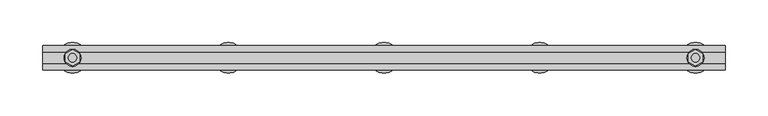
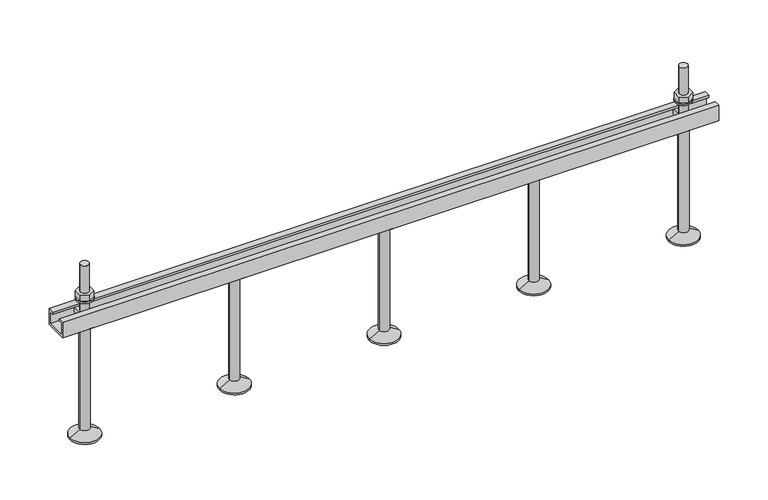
"""IFC4 building model written with IfcOpenShell, lengths in millimetres: fastener geometry, JXA(-PC) JORDAHL® toothed channels : JXA(-PC) L=800 mm."""

from ifc_helpers import new_model, si_unit, point, frame, frame_2d, origin, place, context, project, spatial, polyline, circle_curve, trimmed, segment, composite_curve, outline, extrude, source, transform, mapped, element, save
from ifc_brep_helpers import plane_surface, cylinder_surface, revolved_surface, advanced_brep


def fastener_104148dd(model_context):
    return source(origin(), model_context, "Body", "SolidModel", [
        advanced_brep(
        [(582.5, 0.0, -20.0), (597.0, 0.0, -20.0), (568.0, 0.0, -20.0), (564.5, 0.0, -166.0), (600.5, 0.0, -166.0), (582.5, 0.0, -166.0), (564.5, 0.0, -164.0), (600.5, 0.0, -164.0), (576.5, 0.0, -157.0717968), (588.5, 0.0, -157.0717968), (576.5, 0.0, -22.5), (588.5, 0.0, -22.5)],
        [
            (0, 1),
            (1, 2, circle_curve(frame((582.5, 0.0, -20.0), z_axis=(0.0, 0.0, 1.0), x_axis=(1.0, 0.0, 0.0)), 14.5)),
            (2, 0),
            (2, 1, circle_curve(frame((582.5, 0.0, -20.0), z_axis=(0.0, 0.0, 1.0), x_axis=(1.0, 0.0, 0.0)), 14.5)),
            (3, 4, circle_curve(frame((582.5, 0.0, -166.0), z_axis=(0.0, 0.0, -1.0), x_axis=(1.0, 0.0, 0.0)), 18.0)),
            (4, 5),
            (5, 3),
            (4, 3, circle_curve(frame((582.5, 0.0, -166.0), z_axis=(0.0, 0.0, -1.0), x_axis=(1.0, 0.0, 0.0)), 18.0)),
            (6, 7, circle_curve(frame((582.5, 0.0, -164.0), z_axis=(0.0, 0.0, -1.0), x_axis=(1.0, 0.0, 0.0)), 18.0)),
            (7, 4),
            (3, 6),
            (7, 6, circle_curve(frame((582.5, 0.0, -164.0), z_axis=(0.0, 0.0, -1.0), x_axis=(1.0, 0.0, 0.0)), 18.0)),
            (8, 9, circle_curve(frame((582.5, 0.0, -157.0717968), z_axis=(0.0, 0.0, -1.0), x_axis=(1.0, 0.0, 0.0)), 6.0)),
            (9, 7),
            (6, 8),
            (9, 8, circle_curve(frame((582.5, 0.0, -157.0717968), z_axis=(0.0, 0.0, -1.0), x_axis=(1.0, 0.0, 0.0)), 6.0)),
            (10, 11, circle_curve(frame((582.5, 0.0, -22.5), z_axis=(0.0, 0.0, -1.0), x_axis=(1.0, 0.0, 0.0)), 6.0)),
            (11, 9),
            (8, 10),
            (11, 10, circle_curve(frame((582.5, 0.0, -22.5), z_axis=(0.0, 0.0, -1.0), x_axis=(1.0, 0.0, 0.0)), 6.0)),
            (1, 11),
            (10, 2),
        ],
        [
            plane_surface(frame((582.5, 0.0, -20.0), z_axis=(0.0, 0.0, 1.0), x_axis=(1.0, 0.0, 0.0))),
            plane_surface(frame((582.5, 0.0, -166.0), z_axis=(0.0, 0.0, -1.0), x_axis=(1.0, 0.0, 0.0))),
            cylinder_surface(frame((582.5, 0.0, 2214.3150031), z_axis=(0.0, 0.0, 1.0), x_axis=(1.0, 0.0, 0.0)), 18.0),
            revolved_surface(polyline([(600.5, 0.0, -164.0), (588.5, 0.0, -157.0717968)]), (582.5, 0.0, 2214.3150031), (0.0, 0.0, 1.0)),
            cylinder_surface(frame((582.5, 0.0, 2214.3150031), z_axis=(0.0, 0.0, 1.0), x_axis=(1.0, 0.0, 0.0)), 6.0),
            revolved_surface(polyline([(588.5, 0.0, -22.5), (597.0, 0.0, -20.0)]), (582.5, 0.0, 2214.3150031), (0.0, 0.0, 1.0)),
        ],
        [
            (0, [[1, 2, 3]]),
            (0, [[-3, 4, -1]]),
            (1, [[5, 6, 7]]),
            (1, [[8, -7, -6]]),
            (2, [[9, 10, -5, 11]]),
            (2, [[12, -11, -8, -10]]),
            (3, [[13, 14, -9, 15]]),
            (3, [[16, -15, -12, -14]]),
            (4, [[17, 18, -13, 19]]),
            (4, [[20, -19, -16, -18]]),
            (5, [[-2, 21, -17, 22]]),
            (5, [[-4, -22, -20, -21]]),
        ],
    ),
        advanced_brep(
        [(400.0, 0.0, -20.0), (414.5, 0.0, -20.0), (385.5, 0.0, -20.0), (382.0, 0.0, -166.0), (418.0, 0.0, -166.0), (400.0, 0.0, -166.0), (382.0, 0.0, -164.0), (418.0, 0.0, -164.0), (394.0, 0.0, -157.0717968), (406.0, 0.0, -157.0717968), (394.0, 0.0, -22.5), (406.0, 0.0, -22.5)],
        [
            (0, 1),
            (1, 2, circle_curve(frame((400.0, 0.0, -20.0), z_axis=(0.0, 0.0, 1.0), x_axis=(1.0, 0.0, 0.0)), 14.5)),
            (2, 0),
            (2, 1, circle_curve(frame((400.0, 0.0, -20.0), z_axis=(0.0, 0.0, 1.0), x_axis=(1.0, 0.0, 0.0)), 14.5)),
            (3, 4, circle_curve(frame((400.0, 0.0, -166.0), z_axis=(0.0, 0.0, -1.0), x_axis=(1.0, 0.0, 0.0)), 18.0)),
            (4, 5),
            (5, 3),
            (4, 3, circle_curve(frame((400.0, 0.0, -166.0), z_axis=(0.0, 0.0, -1.0), x_axis=(1.0, 0.0, 0.0)), 18.0)),
            (6, 7, circle_curve(frame((400.0, 0.0, -164.0), z_axis=(0.0, 0.0, -1.0), x_axis=(1.0, 0.0, 0.0)), 18.0)),
            (7, 4),
            (3, 6),
            (7, 6, circle_curve(frame((400.0, 0.0, -164.0), z_axis=(0.0, 0.0, -1.0), x_axis=(1.0, 0.0, 0.0)), 18.0)),
            (8, 9, circle_curve(frame((400.0, 0.0, -157.0717968), z_axis=(0.0, 0.0, -1.0), x_axis=(1.0, 0.0, 0.0)), 6.0)),
            (9, 7),
            (6, 8),
            (9, 8, circle_curve(frame((400.0, 0.0, -157.0717968), z_axis=(0.0, 0.0, -1.0), x_axis=(1.0, 0.0, 0.0)), 6.0)),
            (10, 11, circle_curve(frame((400.0, 0.0, -22.5), z_axis=(0.0, 0.0, -1.0), x_axis=(1.0, 0.0, 0.0)), 6.0)),
            (11, 9),
            (8, 10),
            (11, 10, circle_curve(frame((400.0, 0.0, -22.5), z_axis=(0.0, 0.0, -1.0), x_axis=(1.0, 0.0, 0.0)), 6.0)),
            (1, 11),
            (10, 2),
        ],
        [
            plane_surface(frame((400.0, 0.0, -20.0), z_axis=(0.0, 0.0, 1.0), x_axis=(1.0, 0.0, 0.0))),
            plane_surface(frame((400.0, 0.0, -166.0), z_axis=(0.0, 0.0, -1.0), x_axis=(1.0, 0.0, 0.0))),
            cylinder_surface(frame((400.0, 0.0, 2214.3150031), z_axis=(0.0, 0.0, 1.0), x_axis=(1.0, 0.0, 0.0)), 18.0),
            revolved_surface(polyline([(418.0, 0.0, -164.0), (406.0, 0.0, -157.0717968)]), (400.0, 0.0, 2214.3150031), (0.0, 0.0, 1.0)),
            cylinder_surface(frame((400.0, 0.0, 2214.3150031), z_axis=(0.0, 0.0, 1.0), x_axis=(1.0, 0.0, 0.0)), 6.0),
            revolved_surface(polyline([(406.0, 0.0, -22.5), (414.5, 0.0, -20.0)]), (400.0, 0.0, 2214.3150031), (0.0, 0.0, 1.0)),
        ],
        [
            (0, [[1, 2, 3]]),
            (0, [[-3, 4, -1]]),
            (1, [[5, 6, 7]]),
            (1, [[8, -7, -6]]),
            (2, [[9, 10, -5, 11]]),
            (2, [[12, -11, -8, -10]]),
            (3, [[13, 14, -9, 15]]),
            (3, [[16, -15, -12, -14]]),
            (4, [[17, 18, -13, 19]]),
            (4, [[20, -19, -16, -18]]),
            (5, [[-2, 21, -17, 22]]),
            (5, [[-4, -22, -20, -21]]),
        ],
    ),
        advanced_brep(
        [(217.5, 0.0, -20.0), (232.0, 0.0, -20.0), (203.0, 0.0, -20.0), (199.5, 0.0, -166.0), (235.5, 0.0, -166.0), (217.5, 0.0, -166.0), (199.5, 0.0, -164.0), (235.5, 0.0, -164.0), (211.5, 0.0, -157.0717968), (223.5, 0.0, -157.0717968), (211.5, 0.0, -22.5), (223.5, 0.0, -22.5)],
        [
            (0, 1),
            (1, 2, circle_curve(frame((217.5, 0.0, -20.0), z_axis=(0.0, 0.0, 1.0), x_axis=(1.0, 0.0, 0.0)), 14.5)),
            (2, 0),
            (2, 1, circle_curve(frame((217.5, 0.0, -20.0), z_axis=(0.0, 0.0, 1.0), x_axis=(1.0, 0.0, 0.0)), 14.5)),
            (3, 4, circle_curve(frame((217.5, 0.0, -166.0), z_axis=(0.0, 0.0, -1.0), x_axis=(1.0, 0.0, 0.0)), 18.0)),
            (4, 5),
            (5, 3),
            (4, 3, circle_curve(frame((217.5, 0.0, -166.0), z_axis=(0.0, 0.0, -1.0), x_axis=(1.0, 0.0, 0.0)), 18.0)),
            (6, 7, circle_curve(frame((217.5, 0.0, -164.0), z_axis=(0.0, 0.0, -1.0), x_axis=(1.0, 0.0, 0.0)), 18.0)),
            (7, 4),
            (3, 6),
            (7, 6, circle_curve(frame((217.5, 0.0, -164.0), z_axis=(0.0, 0.0, -1.0), x_axis=(1.0, 0.0, 0.0)), 18.0)),
            (8, 9, circle_curve(frame((217.5, 0.0, -157.0717968), z_axis=(0.0, 0.0, -1.0), x_axis=(1.0, 0.0, 0.0)), 6.0)),
            (9, 7),
            (6, 8),
            (9, 8, circle_curve(frame((217.5, 0.0, -157.0717968), z_axis=(0.0, 0.0, -1.0), x_axis=(1.0, 0.0, 0.0)), 6.0)),
            (10, 11, circle_curve(frame((217.5, 0.0, -22.5), z_axis=(0.0, 0.0, -1.0), x_axis=(1.0, 0.0, 0.0)), 6.0)),
            (11, 9),
            (8, 10),
            (11, 10, circle_curve(frame((217.5, 0.0, -22.5), z_axis=(0.0, 0.0, -1.0), x_axis=(1.0, 0.0, 0.0)), 6.0)),
            (1, 11),
            (10, 2),
        ],
        [
            plane_surface(frame((217.5, 0.0, -20.0), z_axis=(0.0, 0.0, 1.0), x_axis=(1.0, 0.0, 0.0))),
            plane_surface(frame((217.5, 0.0, -166.0), z_axis=(0.0, 0.0, -1.0), x_axis=(1.0, 0.0, 0.0))),
            cylinder_surface(frame((217.5, 0.0, 2214.3150031), z_axis=(0.0, 0.0, 1.0), x_axis=(1.0, 0.0, 0.0)), 18.0),
            revolved_surface(polyline([(235.5, 0.0, -164.0), (223.5, 0.0, -157.0717968)]), (217.5, 0.0, 2214.3150031), (0.0, 0.0, 1.0)),
            cylinder_surface(frame((217.5, 0.0, 2214.3150031), z_axis=(0.0, 0.0, 1.0), x_axis=(1.0, 0.0, 0.0)), 6.0),
            revolved_surface(polyline([(223.5, 0.0, -22.5), (232.0, 0.0, -20.0)]), (217.5, 0.0, 2214.3150031), (0.0, 0.0, 1.0)),
        ],
        [
            (0, [[1, 2, 3]]),
            (0, [[-3, 4, -1]]),
            (1, [[5, 6, 7]]),
            (1, [[8, -7, -6]]),
            (2, [[9, 10, -5, 11]]),
            (2, [[12, -11, -8, -10]]),
            (3, [[13, 14, -9, 15]]),
            (3, [[16, -15, -12, -14]]),
            (4, [[17, 18, -13, 19]]),
            (4, [[20, -19, -16, -18]]),
            (5, [[-2, 21, -17, 22]]),
            (5, [[-4, -22, -20, -21]]),
        ],
    ),
        extrude(outline(composite_curve([segment(trimmed(circle_curve(frame_2d((765.0, 0.0)), 10.0), [point((755.0, 0.0))], [point((775.0, 0.0))], False, "CARTESIAN"), True, "CONTINUOUS"), segment(trimmed(circle_curve(frame_2d((765.0, 0.0)), 10.0), [point((775.0, 0.0))], [point((755.0, 0.0))], False, "CARTESIAN"), True, "CONTINUOUS")], self_intersect=False), holes=[composite_curve([segment(trimmed(circle_curve(frame_2d((765.0, 0.0)), 5.5), [point((759.5, 0.0))], [point((770.5, 0.0))], True, "CARTESIAN"), True, "CONTINUOUS"), segment(trimmed(circle_curve(frame_2d((765.0, 0.0)), 5.5), [point((770.5, 0.0))], [point((759.5, 0.0))], True, "CARTESIAN"), True, "CONTINUOUS")], self_intersect=False)]), frame((0.0, 0.0, 10.0), z_axis=(0.0, 0.0, 1.0), x_axis=(1.0, 0.0, 0.0)), (0.0, 0.0, 1.0), 2.0),
        extrude(outline(polyline([(765.0, 9.8149546), (773.5, 4.9074773), (773.5, -4.9074773), (765.0, -9.8149546), (756.5, -4.9074773), (756.5, 4.9074773), (765.0, 9.8149546)]), holes=[composite_curve([segment(trimmed(circle_curve(frame_2d((765.0, 0.0)), 5.0), [point((760.0, 0.0))], [point((770.0, 0.0))], True, "CARTESIAN"), True, "CONTINUOUS"), segment(trimmed(circle_curve(frame_2d((765.0, 0.0)), 5.0), [point((770.0, 0.0))], [point((760.0, 0.0))], True, "CARTESIAN"), True, "CONTINUOUS")], self_intersect=False)]), frame((0.0, 0.0, 12.0), z_axis=(0.0, 0.0, 1.0), x_axis=(1.0, 0.0, 0.0)), (0.0, 0.0, 1.0), 8.0),
        advanced_brep(
        [(771.5, 10.5, -5.0), (771.5, -10.5, -5.0), (771.5, -10.5, -12.0), (771.5, 10.5, -12.0), (758.5, 10.5, -5.0), (758.5, 10.5, -12.0), (758.5, -10.5, -12.0), (758.5, -10.5, -5.0), (770.0, 0.0, -5.0), (760.0, 0.0, -5.0), (760.0, 0.0, 55.0), (770.0, 0.0, 55.0)],
        [
            (0, 1),
            (1, 2),
            (2, 3),
            (3, 0),
            (4, 5),
            (5, 6),
            (6, 7),
            (7, 4),
            (0, 4),
            (7, 1),
            (8, 9, circle_curve(frame((765.0, 0.0, -5.0), z_axis=(0.0, 0.0, -1.0), x_axis=(1.0, 0.0, 0.0)), 5.0)),
            (9, 8, circle_curve(frame((765.0, 0.0, -5.0), z_axis=(0.0, 0.0, -1.0), x_axis=(1.0, 0.0, 0.0)), 5.0)),
            (6, 2),
            (5, 3),
            (10, 11, circle_curve(frame((765.0, 0.0, 55.0), z_axis=(0.0, 0.0, 1.0), x_axis=(1.0, 0.0, 0.0)), 5.0)),
            (11, 10, circle_curve(frame((765.0, 0.0, 55.0), z_axis=(0.0, 0.0, 1.0), x_axis=(1.0, 0.0, 0.0)), 5.0)),
            (10, 9),
            (8, 11),
        ],
        [
            plane_surface(frame((771.5, -10.5, -5.0), z_axis=(1.0, 0.0, 0.0), x_axis=(0.0, -1.0, 0.0))),
            plane_surface(frame((758.5, -10.5, -5.0), z_axis=(-1.0, 0.0, 0.0), x_axis=(0.0, 1.0, 0.0))),
            plane_surface(frame((771.5, 10.5, -5.0), z_axis=(0.0, 0.0, 1.0), x_axis=(-1.0, 0.0, 0.0))),
            plane_surface(frame((771.5, -10.5, -5.0), z_axis=(0.0, -1.0, 0.0), x_axis=(-1.0, 0.0, 0.0))),
            plane_surface(frame((771.5, -10.5, -12.0), z_axis=(0.0, 0.0, -1.0), x_axis=(-1.0, 0.0, 0.0))),
            plane_surface(frame((771.5, 10.5, -12.0), z_axis=(0.0, 1.0, 0.0), x_axis=(-1.0, 0.0, 0.0))),
            plane_surface(frame((770.0, 0.0, 55.0), z_axis=(0.0, 0.0, 1.0), x_axis=(0.0, 1.0, 0.0))),
            cylinder_surface(frame((765.0, 0.0, -5.0), z_axis=(0.0, 0.0, 1.0), x_axis=(1.0, 0.0, 0.0)), 5.0),
        ],
        [
            (0, [[1, 2, 3, 4]]),
            (1, [[5, 6, 7, 8]]),
            (2, [[-1, 9, -8, 10], [11, 12]]),
            (3, [[-2, -10, -7, 13]]),
            (4, [[-3, -13, -6, 14]]),
            (5, [[-4, -14, -5, -9]]),
            (6, [[15, 16]]),
            (7, [[-15, 17, -11, 18]]),
            (7, [[-16, -18, -12, -17]]),
        ],
    ),
        extrude(outline(composite_curve([segment(trimmed(circle_curve(frame_2d((35.0, 0.0)), 10.0), [point((25.0, 0.0))], [point((45.0, 0.0))], False, "CARTESIAN"), True, "CONTINUOUS"), segment(trimmed(circle_curve(frame_2d((35.0, 0.0)), 10.0), [point((45.0, 0.0))], [point((25.0, 0.0))], False, "CARTESIAN"), True, "CONTINUOUS")], self_intersect=False), holes=[composite_curve([segment(trimmed(circle_curve(frame_2d((35.0, 0.0)), 5.5), [point((29.5, 0.0))], [point((40.5, 0.0))], True, "CARTESIAN"), True, "CONTINUOUS"), segment(trimmed(circle_curve(frame_2d((35.0, 0.0)), 5.5), [point((40.5, 0.0))], [point((29.5, 0.0))], True, "CARTESIAN"), True, "CONTINUOUS")], self_intersect=False)]), frame((0.0, 0.0, 10.0), z_axis=(0.0, 0.0, 1.0), x_axis=(1.0, 0.0, 0.0)), (0.0, 0.0, 1.0), 2.0),
        extrude(outline(polyline([(35.0, 9.8149546), (43.5, 4.9074773), (43.5, -4.9074773), (35.0, -9.8149546), (26.5, -4.9074773), (26.5, 4.9074773), (35.0, 9.8149546)]), holes=[composite_curve([segment(trimmed(circle_curve(frame_2d((35.0, 0.0)), 5.0), [point((30.0, 0.0))], [point((40.0, 0.0))], True, "CARTESIAN"), True, "CONTINUOUS"), segment(trimmed(circle_curve(frame_2d((35.0, 0.0)), 5.0), [point((40.0, 0.0))], [point((30.0, 0.0))], True, "CARTESIAN"), True, "CONTINUOUS")], self_intersect=False)]), frame((0.0, 0.0, 12.0), z_axis=(0.0, 0.0, 1.0), x_axis=(1.0, 0.0, 0.0)), (0.0, 0.0, 1.0), 8.0),
        advanced_brep(
        [(41.5, 10.5, -5.0), (41.5, -10.5, -5.0), (41.5, -10.5, -12.0), (41.5, 10.5, -12.0), (28.5, 10.5, -5.0), (28.5, 10.5, -12.0), (28.5, -10.5, -12.0), (28.5, -10.5, -5.0), (40.0, 0.0, -5.0), (30.0, 0.0, -5.0), (30.0, 0.0, 55.0), (40.0, 0.0, 55.0)],
        [
            (0, 1),
            (1, 2),
            (2, 3),
            (3, 0),
            (4, 5),
            (5, 6),
            (6, 7),
            (7, 4),
            (0, 4),
            (7, 1),
            (8, 9, circle_curve(frame((35.0, 0.0, -5.0), z_axis=(0.0, 0.0, -1.0), x_axis=(1.0, 0.0, 0.0)), 5.0)),
            (9, 8, circle_curve(frame((35.0, 0.0, -5.0), z_axis=(0.0, 0.0, -1.0), x_axis=(1.0, 0.0, 0.0)), 5.0)),
            (6, 2),
            (5, 3),
            (10, 11, circle_curve(frame((35.0, 0.0, 55.0), z_axis=(0.0, 0.0, 1.0), x_axis=(1.0, 0.0, 0.0)), 5.0)),
            (11, 10, circle_curve(frame((35.0, 0.0, 55.0), z_axis=(0.0, 0.0, 1.0), x_axis=(1.0, 0.0, 0.0)), 5.0)),
            (10, 9),
            (8, 11),
        ],
        [
            plane_surface(frame((41.5, -10.5, -5.0), z_axis=(1.0, 0.0, 0.0), x_axis=(0.0, -1.0, 0.0))),
            plane_surface(frame((28.5, -10.5, -5.0), z_axis=(-1.0, 0.0, 0.0), x_axis=(0.0, 1.0, 0.0))),
            plane_surface(frame((41.5, 10.5, -5.0), z_axis=(0.0, 0.0, 1.0), x_axis=(-1.0, 0.0, 0.0))),
            plane_surface(frame((41.5, -10.5, -5.0), z_axis=(0.0, -1.0, 0.0), x_axis=(-1.0, 0.0, 0.0))),
            plane_surface(frame((41.5, -10.5, -12.0), z_axis=(0.0, 0.0, -1.0), x_axis=(-1.0, 0.0, 0.0))),
            plane_surface(frame((41.5, 10.5, -12.0), z_axis=(0.0, 1.0, 0.0), x_axis=(-1.0, 0.0, 0.0))),
            plane_surface(frame((40.0, 0.0, 55.0), z_axis=(0.0, 0.0, 1.0), x_axis=(0.0, 1.0, 0.0))),
            cylinder_surface(frame((35.0, 0.0, -5.0), z_axis=(0.0, 0.0, 1.0), x_axis=(1.0, 0.0, 0.0)), 5.0),
        ],
        [
            (0, [[1, 2, 3, 4]]),
            (1, [[5, 6, 7, 8]]),
            (2, [[-1, 9, -8, 10], [11, 12]]),
            (3, [[-2, -10, -7, 13]]),
            (4, [[-3, -13, -6, 14]]),
            (5, [[-4, -14, -5, -9]]),
            (6, [[15, 16]]),
            (7, [[-15, 17, -11, 18]]),
            (7, [[-16, -18, -12, -17]]),
        ],
    ),
        advanced_brep(
        [(765.0, 0.0, -20.0), (779.5, 0.0, -20.0), (750.5, 0.0, -20.0), (747.0, 0.0, -166.0), (783.0, 0.0, -166.0), (765.0, 0.0, -166.0), (747.0, 0.0, -164.0), (783.0, 0.0, -164.0), (759.0, 0.0, -157.0717968), (771.0, 0.0, -157.0717968), (759.0, 0.0, -22.5), (771.0, 0.0, -22.5)],
        [
            (0, 1),
            (1, 2, circle_curve(frame((765.0, 0.0, -20.0), z_axis=(0.0, 0.0, 1.0), x_axis=(1.0, 0.0, 0.0)), 14.5)),
            (2, 0),
            (2, 1, circle_curve(frame((765.0, 0.0, -20.0), z_axis=(0.0, 0.0, 1.0), x_axis=(1.0, 0.0, 0.0)), 14.5)),
            (3, 4, circle_curve(frame((765.0, 0.0, -166.0), z_axis=(0.0, 0.0, -1.0), x_axis=(1.0, 0.0, 0.0)), 18.0)),
            (4, 5),
            (5, 3),
            (4, 3, circle_curve(frame((765.0, 0.0, -166.0), z_axis=(0.0, 0.0, -1.0), x_axis=(1.0, 0.0, 0.0)), 18.0)),
            (6, 7, circle_curve(frame((765.0, 0.0, -164.0), z_axis=(0.0, 0.0, -1.0), x_axis=(1.0, 0.0, 0.0)), 18.0)),
            (7, 4),
            (3, 6),
            (7, 6, circle_curve(frame((765.0, 0.0, -164.0), z_axis=(0.0, 0.0, -1.0), x_axis=(1.0, 0.0, 0.0)), 18.0)),
            (8, 9, circle_curve(frame((765.0, 0.0, -157.0717968), z_axis=(0.0, 0.0, -1.0), x_axis=(1.0, 0.0, 0.0)), 6.0)),
            (9, 7),
            (6, 8),
            (9, 8, circle_curve(frame((765.0, 0.0, -157.0717968), z_axis=(0.0, 0.0, -1.0), x_axis=(1.0, 0.0, 0.0)), 6.0)),
            (10, 11, circle_curve(frame((765.0, 0.0, -22.5), z_axis=(0.0, 0.0, -1.0), x_axis=(1.0, 0.0, 0.0)), 6.0)),
            (11, 9),
            (8, 10),
            (11, 10, circle_curve(frame((765.0, 0.0, -22.5), z_axis=(0.0, 0.0, -1.0), x_axis=(1.0, 0.0, 0.0)), 6.0)),
            (1, 11),
            (10, 2),
        ],
        [
            plane_surface(frame((765.0, 0.0, -20.0), z_axis=(0.0, 0.0, 1.0), x_axis=(1.0, 0.0, 0.0))),
            plane_surface(frame((765.0, 0.0, -166.0), z_axis=(0.0, 0.0, -1.0), x_axis=(1.0, 0.0, 0.0))),
            cylinder_surface(frame((765.0, 0.0, 2214.3150031), z_axis=(0.0, 0.0, 1.0), x_axis=(1.0, 0.0, 0.0)), 18.0),
            revolved_surface(polyline([(783.0, 0.0, -164.0), (771.0, 0.0, -157.0717968)]), (765.0, 0.0, 2214.3150031), (0.0, 0.0, 1.0)),
            cylinder_surface(frame((765.0, 0.0, 2214.3150031), z_axis=(0.0, 0.0, 1.0), x_axis=(1.0, 0.0, 0.0)), 6.0),
            revolved_surface(polyline([(771.0, 0.0, -22.5), (779.5, 0.0, -20.0)]), (765.0, 0.0, 2214.3150031), (0.0, 0.0, 1.0)),
        ],
        [
            (0, [[1, 2, 3]]),
            (0, [[-3, 4, -1]]),
            (1, [[5, 6, 7]]),
            (1, [[8, -7, -6]]),
            (2, [[9, 10, -5, 11]]),
            (2, [[12, -11, -8, -10]]),
            (3, [[13, 14, -9, 15]]),
            (3, [[16, -15, -12, -14]]),
            (4, [[17, 18, -13, 19]]),
            (4, [[20, -19, -16, -18]]),
            (5, [[-2, 21, -17, 22]]),
            (5, [[-4, -22, -20, -21]]),
        ],
    ),
        advanced_brep(
        [(35.0, 0.0, -20.0), (49.5, 0.0, -20.0), (20.5, 0.0, -20.0), (17.0, 0.0, -166.0), (53.0, 0.0, -166.0), (35.0, 0.0, -166.0), (17.0, 0.0, -164.0), (53.0, 0.0, -164.0), (29.0, 0.0, -157.0717968), (41.0, 0.0, -157.0717968), (29.0, 0.0, -22.5), (41.0, 0.0, -22.5)],
        [
            (0, 1),
            (1, 2, circle_curve(frame((35.0, 0.0, -20.0), z_axis=(0.0, 0.0, 1.0), x_axis=(1.0, 0.0, 0.0)), 14.5)),
            (2, 0),
            (2, 1, circle_curve(frame((35.0, 0.0, -20.0), z_axis=(0.0, 0.0, 1.0), x_axis=(1.0, 0.0, 0.0)), 14.5)),
            (3, 4, circle_curve(frame((35.0, 0.0, -166.0), z_axis=(0.0, 0.0, -1.0), x_axis=(1.0, 0.0, 0.0)), 18.0)),
            (4, 5),
            (5, 3),
            (4, 3, circle_curve(frame((35.0, 0.0, -166.0), z_axis=(0.0, 0.0, -1.0), x_axis=(1.0, 0.0, 0.0)), 18.0)),
            (6, 7, circle_curve(frame((35.0, 0.0, -164.0), z_axis=(0.0, 0.0, -1.0), x_axis=(1.0, 0.0, 0.0)), 18.0)),
            (7, 4),
            (3, 6),
            (7, 6, circle_curve(frame((35.0, 0.0, -164.0), z_axis=(0.0, 0.0, -1.0), x_axis=(1.0, 0.0, 0.0)), 18.0)),
            (8, 9, circle_curve(frame((35.0, 0.0, -157.0717968), z_axis=(0.0, 0.0, -1.0), x_axis=(1.0, 0.0, 0.0)), 6.0)),
            (9, 7),
            (6, 8),
            (9, 8, circle_curve(frame((35.0, 0.0, -157.0717968), z_axis=(0.0, 0.0, -1.0), x_axis=(1.0, 0.0, 0.0)), 6.0)),
            (10, 11, circle_curve(frame((35.0, 0.0, -22.5), z_axis=(0.0, 0.0, -1.0), x_axis=(1.0, 0.0, 0.0)), 6.0)),
            (11, 9),
            (8, 10),
            (11, 10, circle_curve(frame((35.0, 0.0, -22.5), z_axis=(0.0, 0.0, -1.0), x_axis=(1.0, 0.0, 0.0)), 6.0)),
            (1, 11),
            (10, 2),
        ],
        [
            plane_surface(frame((35.0, 0.0, -20.0), z_axis=(0.0, 0.0, 1.0), x_axis=(1.0, 0.0, 0.0))),
            plane_surface(frame((35.0, 0.0, -166.0), z_axis=(0.0, 0.0, -1.0), x_axis=(1.0, 0.0, 0.0))),
            cylinder_surface(frame((35.0, 0.0, 2214.3150031), z_axis=(0.0, 0.0, 1.0), x_axis=(1.0, 0.0, 0.0)), 18.0),
            revolved_surface(polyline([(53.0, 0.0, -164.0), (41.0, 0.0, -157.0717968)]), (35.0, 0.0, 2214.3150031), (0.0, 0.0, 1.0)),
            cylinder_surface(frame((35.0, 0.0, 2214.3150031), z_axis=(0.0, 0.0, 1.0), x_axis=(1.0, 0.0, 0.0)), 6.0),
            revolved_surface(polyline([(41.0, 0.0, -22.5), (49.5, 0.0, -20.0)]), (35.0, 0.0, 2214.3150031), (0.0, 0.0, 1.0)),
        ],
        [
            (0, [[1, 2, 3]]),
            (0, [[-3, 4, -1]]),
            (1, [[5, 6, 7]]),
            (1, [[8, -7, -6]]),
            (2, [[9, 10, -5, 11]]),
            (2, [[12, -11, -8, -10]]),
            (3, [[13, 14, -9, 15]]),
            (3, [[16, -15, -12, -14]]),
            (4, [[17, 18, -13, 19]]),
            (4, [[20, -19, -16, -18]]),
            (5, [[-2, 21, -17, 22]]),
            (5, [[-4, -22, -20, -21]]),
        ],
    ),
        extrude(outline(polyline([(14.5, 0.0), (14.5, -20.0), (-14.5, -20.0), (-14.5, 0.0), (-7.0, 0.0), (-7.0, -3.0), (-12.0, -3.0), (-12.0, -17.5), (12.0, -17.5), (12.0, -3.0), (7.0, -3.0), (7.0, 0.0), (14.5, 0.0)])), frame((0.0, 0.0, 0.0), z_axis=(1.0, 0.0, 0.0), x_axis=(0.0, 1.0, 0.0)), (0.0, 0.0, 1.0), 800.0),
    ])


if __name__ == "__main__":
    model = new_model("IFC4")
    model_context = context("Model", 3, world=origin())
    ifc_project = project(units=[si_unit("LENGTHUNIT", "METRE", prefix="MILLI")], contexts=[model_context])
    site = spatial("IfcSite", under=ifc_project)
    building = spatial("IfcBuilding", under=site)
    placement = place(None, origin())
    fastener_shape = fastener_104148dd(model_context)
    element("IfcFastener", 1, ObjectType="JXA(-PC) JORDAHL® toothed channels : JXA(-PC) L=800 mm", at=placement, inside=building, context=model_context, shape_type="MappedRepresentation", body=[
        mapped(fastener_shape, transform((0.0, 0.0, 0.0), x_axis=(1.0, 0.0, 0.0), y_axis=(0.0, 1.0, 0.0), z_axis=(0.0, 0.0, 1.0))),
    ])
    save(model, "model.ifc")
